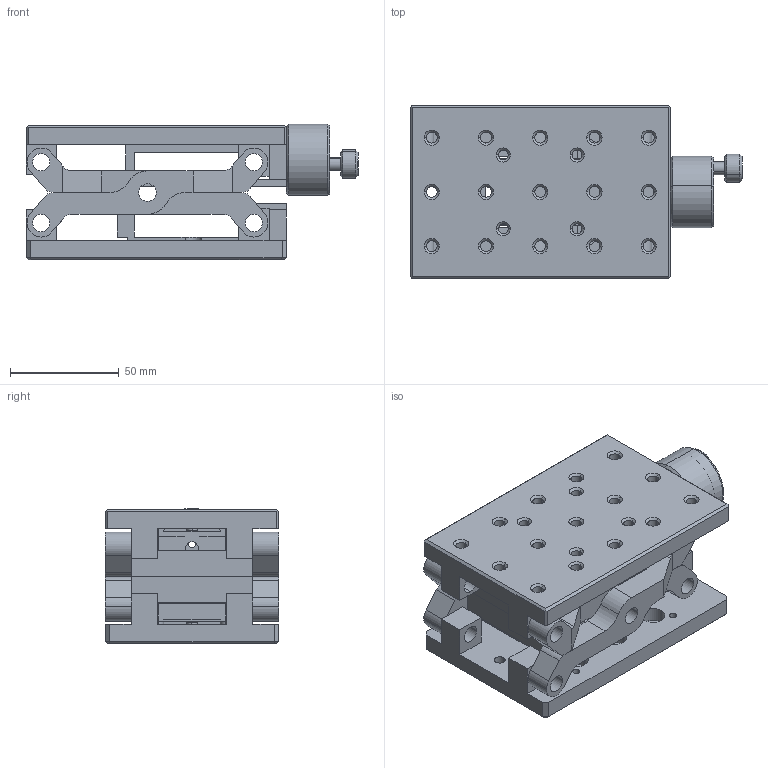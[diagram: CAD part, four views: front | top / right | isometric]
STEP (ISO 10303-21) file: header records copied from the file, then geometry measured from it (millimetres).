
FILE_DESCRIPTION (( 'STEP AP203' ), '1' );
FILE_NAME ('SS10-60.STEP', '2019-08-01T07:25:22', ( 'SALES' ), ( 'Microsoft' ), 'SwSTEP 2.0', 'SolidWorks 2016', '' );
FILE_SCHEMA (( 'CONFIG_CONTROL_DESIGN' ));
Length unit declared in the file: millimetre
Products named in the file (1): SS10-60
Bounding box: 153 x 80 x 62.5 mm (x, y, z)
Surface area: 93768.6 mm2 (no closed solid volume)
Topology: 0 solids, 11 shells, 403 faces, 1186 edges, 794 vertices
Faces by surface type: cylinder 184, plane 135, cone 84
Entity records: 13691 total; most frequent: DIRECTION 2484, CARTESIAN_POINT 2422, ORIENTED_EDGE 2114, EDGE_CURVE 1186, AXIS2_PLACEMENT_3D 904, VERTEX_POINT 794, LINE 676, VECTOR 676
